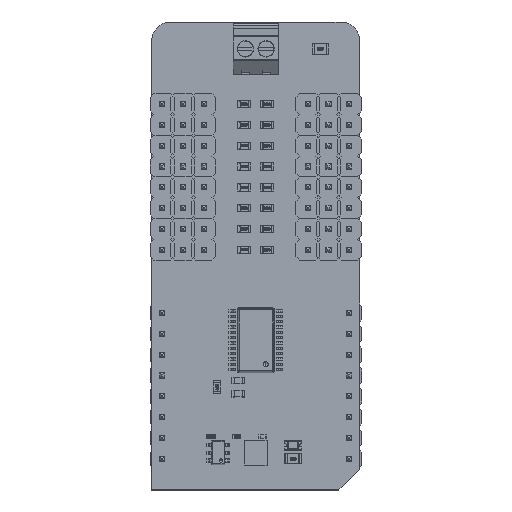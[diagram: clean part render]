
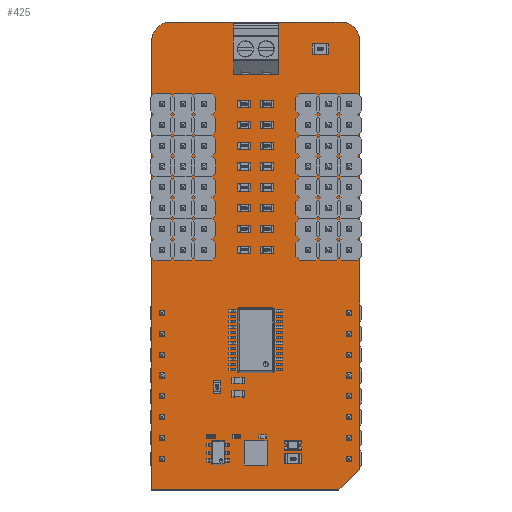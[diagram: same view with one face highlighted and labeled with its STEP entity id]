
A CAD part, top view. The second image highlights one B-rep face of the part: STEP entity #425.
In plain terms, the highlighted planar face has unit normal (0, 0, 1).
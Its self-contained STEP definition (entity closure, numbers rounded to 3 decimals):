
#196 = VERTEX_POINT('',#197);
#197 = CARTESIAN_POINT('',(-1.27,-3.81,1.65));
#203 = EDGE_CURVE('',#196,#204,#206,.T.);
#204 = VERTEX_POINT('',#205);
#205 = CARTESIAN_POINT('',(-1.27,51.054,1.65));
#206 = LINE('',#207,#208);
#207 = CARTESIAN_POINT('',(-1.27,-3.81,1.65));
#208 = VECTOR('',#209,1.);
#209 = DIRECTION('',(0.,1.,0.));
#234 = EDGE_CURVE('',#204,#235,#237,.T.);
#235 = VERTEX_POINT('',#236);
#236 = CARTESIAN_POINT('',(1.016,53.34,1.65));
#237 = CIRCLE('',#238,2.288);
#238 = AXIS2_PLACEMENT_3D('',#239,#240,#241);
#239 = CARTESIAN_POINT('',(1.018,51.052,1.65));
#240 = DIRECTION('',(0.,0.,-1.));
#241 = DIRECTION('',(-1.,0.001,0.));
#267 = EDGE_CURVE('',#235,#268,#270,.T.);
#268 = VERTEX_POINT('',#269);
#269 = CARTESIAN_POINT('',(21.844,53.34,1.65));
#270 = LINE('',#271,#272);
#271 = CARTESIAN_POINT('',(1.016,53.34,1.65));
#272 = VECTOR('',#273,1.);
#273 = DIRECTION('',(1.,0.,0.));
#298 = EDGE_CURVE('',#268,#299,#301,.T.);
#299 = VERTEX_POINT('',#300);
#300 = CARTESIAN_POINT('',(24.13,51.054,1.65));
#301 = CIRCLE('',#302,2.288);
#302 = AXIS2_PLACEMENT_3D('',#303,#304,#305);
#303 = CARTESIAN_POINT('',(21.842,51.052,1.65));
#304 = DIRECTION('',(0.,0.,-1.));
#305 = DIRECTION('',(0.001,1.,0.));
#331 = EDGE_CURVE('',#299,#332,#334,.T.);
#332 = VERTEX_POINT('',#333);
#333 = CARTESIAN_POINT('',(24.13,-1.27,1.65));
#334 = LINE('',#335,#336);
#335 = CARTESIAN_POINT('',(24.13,51.054,1.65));
#336 = VECTOR('',#337,1.);
#337 = DIRECTION('',(0.,-1.,0.));
#362 = EDGE_CURVE('',#332,#363,#365,.T.);
#363 = VERTEX_POINT('',#364);
#364 = CARTESIAN_POINT('',(21.59,-3.81,1.65));
#365 = LINE('',#366,#367);
#366 = CARTESIAN_POINT('',(24.13,-1.27,1.65));
#367 = VECTOR('',#368,1.);
#368 = DIRECTION('',(-0.707,-0.707,0.));
#393 = EDGE_CURVE('',#363,#196,#394,.T.);
#394 = LINE('',#395,#396);
#395 = CARTESIAN_POINT('',(21.59,-3.81,1.65));
#396 = VECTOR('',#397,1.);
#397 = DIRECTION('',(-1.,0.,0.));
#425 = ADVANCED_FACE('',(#426),#435,.F.);
#426 = FACE_BOUND('',#427,.F.);
#427 = EDGE_LOOP('',(#428,#429,#430,#431,#432,#433,#434));
#428 = ORIENTED_EDGE('',*,*,#203,.T.);
#429 = ORIENTED_EDGE('',*,*,#234,.T.);
#430 = ORIENTED_EDGE('',*,*,#267,.T.);
#431 = ORIENTED_EDGE('',*,*,#298,.T.);
#432 = ORIENTED_EDGE('',*,*,#331,.T.);
#433 = ORIENTED_EDGE('',*,*,#362,.T.);
#434 = ORIENTED_EDGE('',*,*,#393,.T.);
#435 = PLANE('',#436);
#436 = AXIS2_PLACEMENT_3D('',#437,#438,#439);
#437 = CARTESIAN_POINT('',(11.305,24.669,1.65));
#438 = DIRECTION('',(-0.,-0.,-1.));
#439 = DIRECTION('',(-1.,0.,0.));
